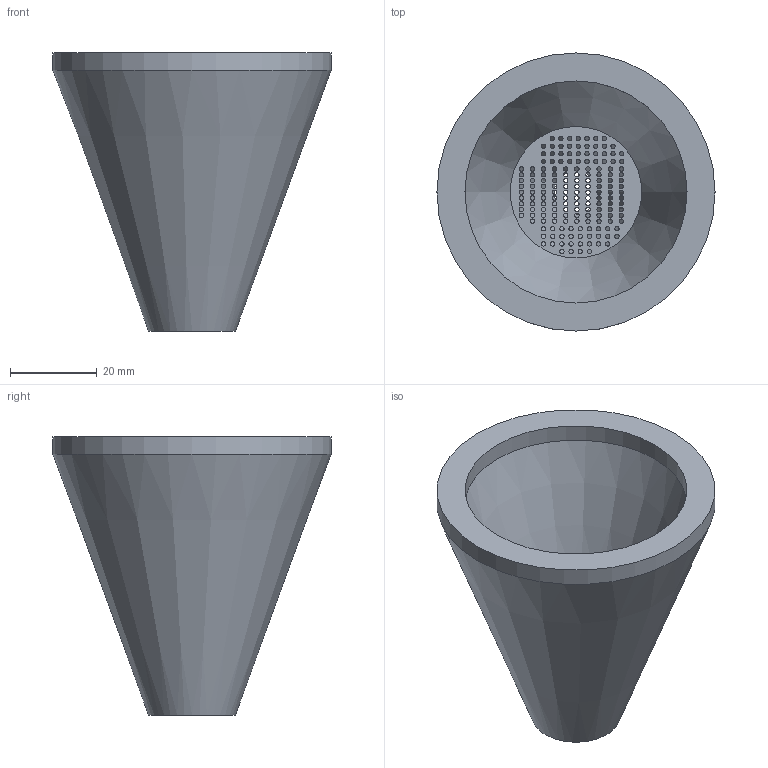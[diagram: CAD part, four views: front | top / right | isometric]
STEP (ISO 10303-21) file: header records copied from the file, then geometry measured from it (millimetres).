
FILE_DESCRIPTION(/* description */ (''),/* implementation_level */ '2;1');
FILE_NAME(/* name */ 'D:/Files/3D/For Submission/Lid (Bottle).step',/* time_stamp */ '2020-10-28T00:59:11+05:00',/* author */ (''),/* organization */ (''),/* preprocessor_version */ 'ST-DEVELOPER v18.1',/* originating_system */ 'Autodesk Translation Framework v9.3.0.1241',/* authorisation */ '');
FILE_SCHEMA (('AUTOMOTIVE_DESIGN { 1 0 10303 214 3 1 1 }'));
Length unit declared in the file: millimetre
Products named in the file (1): Lid (Bottle)
Bounding box: 64 x 64 x 64 mm (x, y, z)
Volume: 48508.5 mm3; surface area: 19244.7 mm2
Topology: 1 solids, 1 shells, 177 faces, 514 edges, 342 vertices
Faces by surface type: cylinder 169, plane 5, cone 3
Full cylindrical faces by diameter (mm): 1 x165, 15.172 x1, 30.265 x1, 51.108 x1, 64 x1
Entity records: 6754 total; most frequent: DIRECTION 1212, CARTESIAN_POINT 1034, ORIENTED_EDGE 1028, AXIS2_PLACEMENT_3D 520, EDGE_CURVE 514, EDGE_LOOP 510, CIRCLE 342, VERTEX_POINT 342
